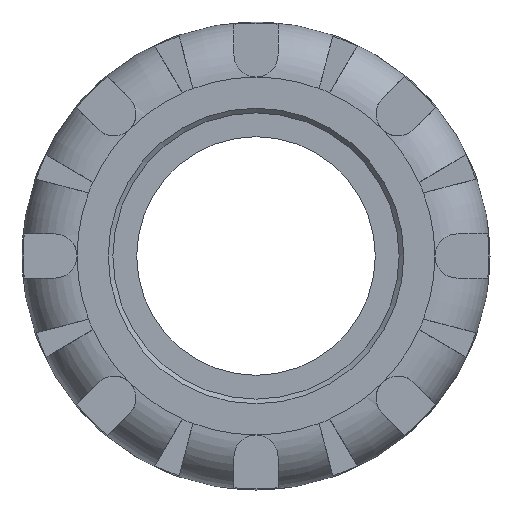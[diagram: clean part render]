
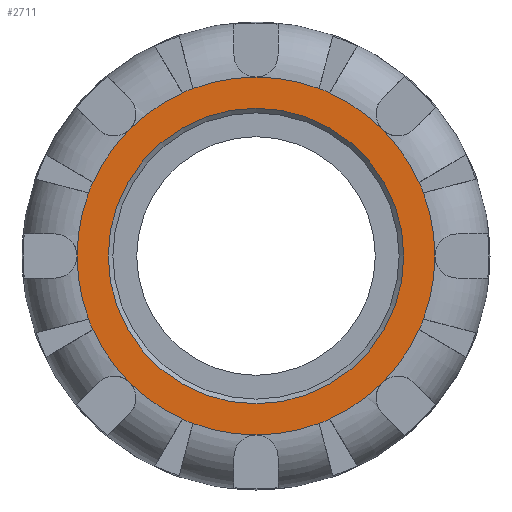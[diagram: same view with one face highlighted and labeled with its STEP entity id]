
A CAD part, left-side view. The second image highlights one B-rep face of the part: STEP entity #2711.
In plain terms, the highlighted planar face has unit normal (-1, 0, 0).
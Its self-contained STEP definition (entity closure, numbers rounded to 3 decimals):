
#19=FACE_BOUND('',#619,.T.);
#34=PLANE('',#2910);
#454=FACE_OUTER_BOUND('',#618,.T.);
#618=EDGE_LOOP('',(#1823,#1824,#1825,#1826,#1827,#1828,#1829,#1830,#1831,
#1832,#1833,#1834,#1835,#1836,#1837,#1838,#1839,#1840,#1841,#1842,#1843,
#1844,#1845,#1846));
#619=EDGE_LOOP('',(#1847));
#785=CIRCLE('',#2907,32.53);
#788=CIRCLE('',#2911,39.375);
#789=CIRCLE('',#2912,39.375);
#790=CIRCLE('',#2913,39.375);
#791=CIRCLE('',#2914,39.375);
#792=CIRCLE('',#2915,39.375);
#793=CIRCLE('',#2916,39.375);
#794=CIRCLE('',#2917,39.375);
#795=CIRCLE('',#2918,39.375);
#796=CIRCLE('',#2919,39.375);
#797=CIRCLE('',#2920,39.375);
#798=CIRCLE('',#2921,39.375);
#799=CIRCLE('',#2922,39.375);
#800=CIRCLE('',#2923,39.375);
#801=CIRCLE('',#2924,39.375);
#802=CIRCLE('',#2925,39.375);
#803=CIRCLE('',#2926,39.375);
#804=CIRCLE('',#2927,39.375);
#805=CIRCLE('',#2928,39.375);
#806=CIRCLE('',#2929,39.375);
#807=CIRCLE('',#2930,39.375);
#808=CIRCLE('',#2931,39.375);
#809=CIRCLE('',#2932,39.375);
#810=CIRCLE('',#2933,39.375);
#811=CIRCLE('',#2934,39.375);
#1077=VERTEX_POINT('',#4318);
#1080=VERTEX_POINT('',#4326);
#1081=VERTEX_POINT('',#4327);
#1082=VERTEX_POINT('',#4329);
#1083=VERTEX_POINT('',#4331);
#1084=VERTEX_POINT('',#4333);
#1085=VERTEX_POINT('',#4335);
#1086=VERTEX_POINT('',#4337);
#1087=VERTEX_POINT('',#4339);
#1088=VERTEX_POINT('',#4341);
#1089=VERTEX_POINT('',#4343);
#1090=VERTEX_POINT('',#4345);
#1091=VERTEX_POINT('',#4347);
#1092=VERTEX_POINT('',#4349);
#1093=VERTEX_POINT('',#4351);
#1094=VERTEX_POINT('',#4353);
#1095=VERTEX_POINT('',#4355);
#1096=VERTEX_POINT('',#4357);
#1097=VERTEX_POINT('',#4359);
#1098=VERTEX_POINT('',#4361);
#1099=VERTEX_POINT('',#4363);
#1100=VERTEX_POINT('',#4365);
#1101=VERTEX_POINT('',#4367);
#1102=VERTEX_POINT('',#4369);
#1103=VERTEX_POINT('',#4371);
#1363=EDGE_CURVE('',#1077,#1077,#785,.T.);
#1367=EDGE_CURVE('',#1080,#1081,#788,.T.);
#1368=EDGE_CURVE('',#1082,#1080,#789,.T.);
#1369=EDGE_CURVE('',#1083,#1082,#790,.T.);
#1370=EDGE_CURVE('',#1084,#1083,#791,.T.);
#1371=EDGE_CURVE('',#1085,#1084,#792,.T.);
#1372=EDGE_CURVE('',#1086,#1085,#793,.T.);
#1373=EDGE_CURVE('',#1087,#1086,#794,.T.);
#1374=EDGE_CURVE('',#1088,#1087,#795,.T.);
#1375=EDGE_CURVE('',#1089,#1088,#796,.T.);
#1376=EDGE_CURVE('',#1090,#1089,#797,.T.);
#1377=EDGE_CURVE('',#1091,#1090,#798,.T.);
#1378=EDGE_CURVE('',#1092,#1091,#799,.T.);
#1379=EDGE_CURVE('',#1093,#1092,#800,.T.);
#1380=EDGE_CURVE('',#1094,#1093,#801,.T.);
#1381=EDGE_CURVE('',#1095,#1094,#802,.T.);
#1382=EDGE_CURVE('',#1096,#1095,#803,.T.);
#1383=EDGE_CURVE('',#1097,#1096,#804,.T.);
#1384=EDGE_CURVE('',#1098,#1097,#805,.T.);
#1385=EDGE_CURVE('',#1099,#1098,#806,.T.);
#1386=EDGE_CURVE('',#1100,#1099,#807,.T.);
#1387=EDGE_CURVE('',#1101,#1100,#808,.T.);
#1388=EDGE_CURVE('',#1102,#1101,#809,.T.);
#1389=EDGE_CURVE('',#1103,#1102,#810,.T.);
#1390=EDGE_CURVE('',#1081,#1103,#811,.T.);
#1823=ORIENTED_EDGE('',*,*,#1367,.F.);
#1824=ORIENTED_EDGE('',*,*,#1368,.F.);
#1825=ORIENTED_EDGE('',*,*,#1369,.F.);
#1826=ORIENTED_EDGE('',*,*,#1370,.F.);
#1827=ORIENTED_EDGE('',*,*,#1371,.F.);
#1828=ORIENTED_EDGE('',*,*,#1372,.F.);
#1829=ORIENTED_EDGE('',*,*,#1373,.F.);
#1830=ORIENTED_EDGE('',*,*,#1374,.F.);
#1831=ORIENTED_EDGE('',*,*,#1375,.F.);
#1832=ORIENTED_EDGE('',*,*,#1376,.F.);
#1833=ORIENTED_EDGE('',*,*,#1377,.F.);
#1834=ORIENTED_EDGE('',*,*,#1378,.F.);
#1835=ORIENTED_EDGE('',*,*,#1379,.F.);
#1836=ORIENTED_EDGE('',*,*,#1380,.F.);
#1837=ORIENTED_EDGE('',*,*,#1381,.F.);
#1838=ORIENTED_EDGE('',*,*,#1382,.F.);
#1839=ORIENTED_EDGE('',*,*,#1383,.F.);
#1840=ORIENTED_EDGE('',*,*,#1384,.F.);
#1841=ORIENTED_EDGE('',*,*,#1385,.F.);
#1842=ORIENTED_EDGE('',*,*,#1386,.F.);
#1843=ORIENTED_EDGE('',*,*,#1387,.F.);
#1844=ORIENTED_EDGE('',*,*,#1388,.F.);
#1845=ORIENTED_EDGE('',*,*,#1389,.F.);
#1846=ORIENTED_EDGE('',*,*,#1390,.F.);
#1847=ORIENTED_EDGE('',*,*,#1363,.F.);
#2711=ADVANCED_FACE('',(#454,#19),#34,.T.);
#2907=AXIS2_PLACEMENT_3D('',#4319,#3279,#3280);
#2910=AXIS2_PLACEMENT_3D('',#4325,#3286,#3287);
#2911=AXIS2_PLACEMENT_3D('',#4328,#3288,#3289);
#2912=AXIS2_PLACEMENT_3D('',#4330,#3290,#3291);
#2913=AXIS2_PLACEMENT_3D('',#4332,#3292,#3293);
#2914=AXIS2_PLACEMENT_3D('',#4334,#3294,#3295);
#2915=AXIS2_PLACEMENT_3D('',#4336,#3296,#3297);
#2916=AXIS2_PLACEMENT_3D('',#4338,#3298,#3299);
#2917=AXIS2_PLACEMENT_3D('',#4340,#3300,#3301);
#2918=AXIS2_PLACEMENT_3D('',#4342,#3302,#3303);
#2919=AXIS2_PLACEMENT_3D('',#4344,#3304,#3305);
#2920=AXIS2_PLACEMENT_3D('',#4346,#3306,#3307);
#2921=AXIS2_PLACEMENT_3D('',#4348,#3308,#3309);
#2922=AXIS2_PLACEMENT_3D('',#4350,#3310,#3311);
#2923=AXIS2_PLACEMENT_3D('',#4352,#3312,#3313);
#2924=AXIS2_PLACEMENT_3D('',#4354,#3314,#3315);
#2925=AXIS2_PLACEMENT_3D('',#4356,#3316,#3317);
#2926=AXIS2_PLACEMENT_3D('',#4358,#3318,#3319);
#2927=AXIS2_PLACEMENT_3D('',#4360,#3320,#3321);
#2928=AXIS2_PLACEMENT_3D('',#4362,#3322,#3323);
#2929=AXIS2_PLACEMENT_3D('',#4364,#3324,#3325);
#2930=AXIS2_PLACEMENT_3D('',#4366,#3326,#3327);
#2931=AXIS2_PLACEMENT_3D('',#4368,#3328,#3329);
#2932=AXIS2_PLACEMENT_3D('',#4370,#3330,#3331);
#2933=AXIS2_PLACEMENT_3D('',#4372,#3332,#3333);
#2934=AXIS2_PLACEMENT_3D('',#4373,#3334,#3335);
#3279=DIRECTION('center_axis',(-1.,0.,0.));
#3280=DIRECTION('ref_axis',(0.,-1.,0.));
#3286=DIRECTION('center_axis',(-1.,0.,0.));
#3287=DIRECTION('ref_axis',(0.,0.,1.));
#3288=DIRECTION('center_axis',(1.,0.,0.));
#3289=DIRECTION('ref_axis',(0.,0.,-1.));
#3290=DIRECTION('center_axis',(1.,0.,0.));
#3291=DIRECTION('ref_axis',(0.,0.,-1.));
#3292=DIRECTION('center_axis',(1.,0.,0.));
#3293=DIRECTION('ref_axis',(0.,0.,-1.));
#3294=DIRECTION('center_axis',(1.,0.,0.));
#3295=DIRECTION('ref_axis',(0.,0.,-1.));
#3296=DIRECTION('center_axis',(1.,0.,0.));
#3297=DIRECTION('ref_axis',(0.,0.,-1.));
#3298=DIRECTION('center_axis',(1.,0.,0.));
#3299=DIRECTION('ref_axis',(0.,0.,-1.));
#3300=DIRECTION('center_axis',(1.,0.,0.));
#3301=DIRECTION('ref_axis',(0.,0.,-1.));
#3302=DIRECTION('center_axis',(1.,0.,0.));
#3303=DIRECTION('ref_axis',(0.,0.,-1.));
#3304=DIRECTION('center_axis',(1.,0.,0.));
#3305=DIRECTION('ref_axis',(0.,0.,-1.));
#3306=DIRECTION('center_axis',(1.,0.,0.));
#3307=DIRECTION('ref_axis',(0.,0.,-1.));
#3308=DIRECTION('center_axis',(1.,0.,0.));
#3309=DIRECTION('ref_axis',(0.,0.,-1.));
#3310=DIRECTION('center_axis',(1.,0.,0.));
#3311=DIRECTION('ref_axis',(0.,0.,-1.));
#3312=DIRECTION('center_axis',(1.,0.,0.));
#3313=DIRECTION('ref_axis',(0.,0.,-1.));
#3314=DIRECTION('center_axis',(1.,0.,0.));
#3315=DIRECTION('ref_axis',(0.,0.,-1.));
#3316=DIRECTION('center_axis',(1.,0.,0.));
#3317=DIRECTION('ref_axis',(0.,0.,-1.));
#3318=DIRECTION('center_axis',(1.,0.,0.));
#3319=DIRECTION('ref_axis',(0.,0.,-1.));
#3320=DIRECTION('center_axis',(1.,0.,0.));
#3321=DIRECTION('ref_axis',(0.,0.,-1.));
#3322=DIRECTION('center_axis',(1.,0.,0.));
#3323=DIRECTION('ref_axis',(0.,0.,-1.));
#3324=DIRECTION('center_axis',(1.,0.,0.));
#3325=DIRECTION('ref_axis',(0.,0.,-1.));
#3326=DIRECTION('center_axis',(1.,0.,0.));
#3327=DIRECTION('ref_axis',(0.,0.,-1.));
#3328=DIRECTION('center_axis',(1.,0.,0.));
#3329=DIRECTION('ref_axis',(0.,0.,-1.));
#3330=DIRECTION('center_axis',(1.,0.,0.));
#3331=DIRECTION('ref_axis',(0.,0.,-1.));
#3332=DIRECTION('center_axis',(1.,0.,0.));
#3333=DIRECTION('ref_axis',(0.,0.,-1.));
#3334=DIRECTION('center_axis',(1.,0.,0.));
#3335=DIRECTION('ref_axis',(0.,0.,-1.));
#4318=CARTESIAN_POINT('',(-96.,32.53,0.));
#4319=CARTESIAN_POINT('Origin',(-96.,0.,0.));
#4325=CARTESIAN_POINT('Origin',(-96.,39.375,0.));
#4326=CARTESIAN_POINT('',(-96.,39.375,0.));
#4327=CARTESIAN_POINT('',(-96.,36.841,13.896));
#4328=CARTESIAN_POINT('Origin',(-96.,0.,0.));
#4329=CARTESIAN_POINT('',(-96.,36.841,-13.896));
#4330=CARTESIAN_POINT('Origin',(-96.,0.,0.));
#4331=CARTESIAN_POINT('',(-96.,35.877,-16.225));
#4332=CARTESIAN_POINT('Origin',(-96.,0.,0.));
#4333=CARTESIAN_POINT('',(-96.,27.842,-27.842));
#4334=CARTESIAN_POINT('Origin',(-96.,0.,0.));
#4335=CARTESIAN_POINT('',(-96.,16.225,-35.877));
#4336=CARTESIAN_POINT('Origin',(-96.,0.,0.));
#4337=CARTESIAN_POINT('',(-96.,13.896,-36.841));
#4338=CARTESIAN_POINT('Origin',(-96.,0.,0.));
#4339=CARTESIAN_POINT('',(-96.,0.,-39.375));
#4340=CARTESIAN_POINT('Origin',(-96.,0.,0.));
#4341=CARTESIAN_POINT('',(-96.,-13.896,-36.841));
#4342=CARTESIAN_POINT('Origin',(-96.,0.,0.));
#4343=CARTESIAN_POINT('',(-96.,-16.225,-35.877));
#4344=CARTESIAN_POINT('Origin',(-96.,0.,0.));
#4345=CARTESIAN_POINT('',(-96.,-27.842,-27.842));
#4346=CARTESIAN_POINT('Origin',(-96.,0.,0.));
#4347=CARTESIAN_POINT('',(-96.,-35.877,-16.225));
#4348=CARTESIAN_POINT('Origin',(-96.,0.,0.));
#4349=CARTESIAN_POINT('',(-96.,-36.841,-13.896));
#4350=CARTESIAN_POINT('Origin',(-96.,0.,0.));
#4351=CARTESIAN_POINT('',(-96.,-39.375,0.));
#4352=CARTESIAN_POINT('Origin',(-96.,0.,0.));
#4353=CARTESIAN_POINT('',(-96.,-36.841,13.896));
#4354=CARTESIAN_POINT('Origin',(-96.,0.,0.));
#4355=CARTESIAN_POINT('',(-96.,-35.877,16.225));
#4356=CARTESIAN_POINT('Origin',(-96.,0.,0.));
#4357=CARTESIAN_POINT('',(-96.,-27.842,27.842));
#4358=CARTESIAN_POINT('Origin',(-96.,0.,0.));
#4359=CARTESIAN_POINT('',(-96.,-16.225,35.877));
#4360=CARTESIAN_POINT('Origin',(-96.,0.,0.));
#4361=CARTESIAN_POINT('',(-96.,-13.896,36.841));
#4362=CARTESIAN_POINT('Origin',(-96.,0.,0.));
#4363=CARTESIAN_POINT('',(-96.,0.,39.375));
#4364=CARTESIAN_POINT('Origin',(-96.,0.,0.));
#4365=CARTESIAN_POINT('',(-96.,13.896,36.841));
#4366=CARTESIAN_POINT('Origin',(-96.,0.,0.));
#4367=CARTESIAN_POINT('',(-96.,16.225,35.877));
#4368=CARTESIAN_POINT('Origin',(-96.,0.,0.));
#4369=CARTESIAN_POINT('',(-96.,27.842,27.842));
#4370=CARTESIAN_POINT('Origin',(-96.,0.,0.));
#4371=CARTESIAN_POINT('',(-96.,35.877,16.225));
#4372=CARTESIAN_POINT('Origin',(-96.,0.,0.));
#4373=CARTESIAN_POINT('Origin',(-96.,0.,0.));
